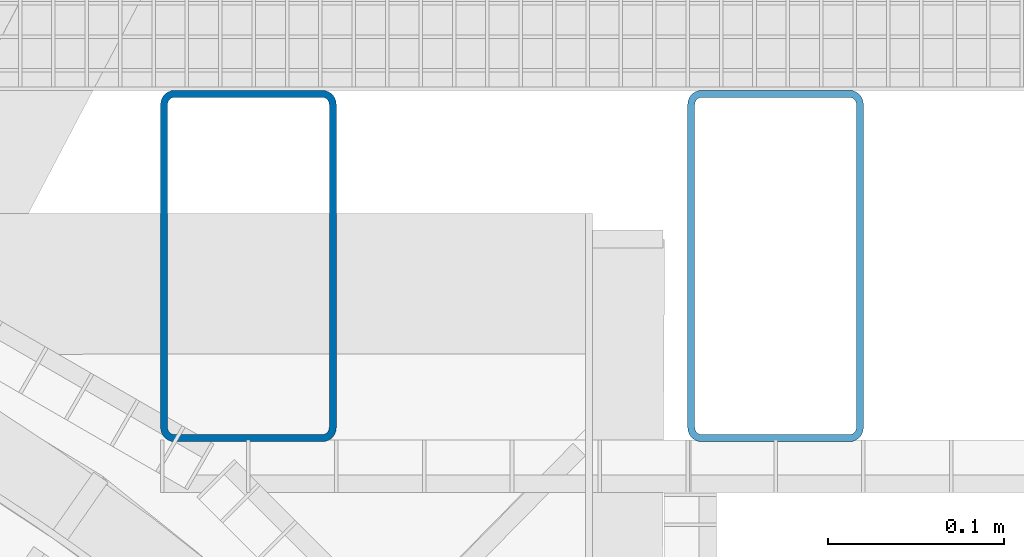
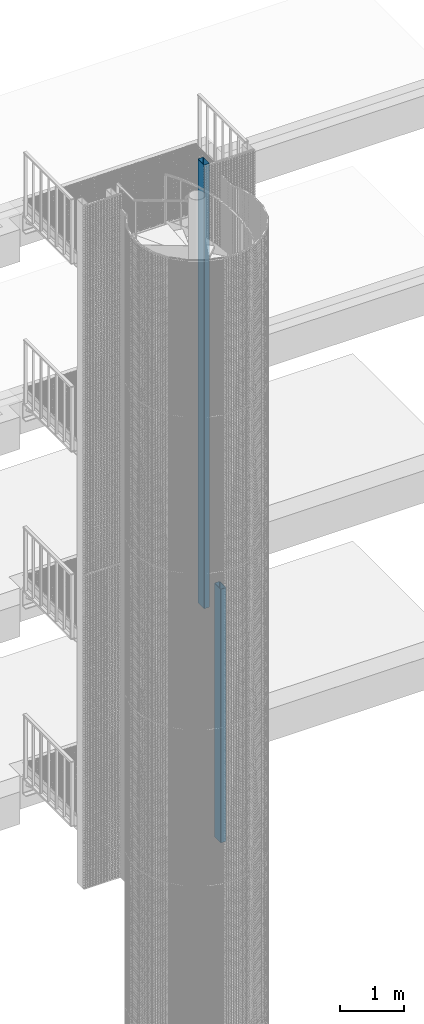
# One storey, part 29 of 1183: 2 columns, 2 elements without a shape of their own.
"""IFC2X3 building model written with IfcOpenShell, lengths in millimetres."""

from ifc_helpers import new_model, si_unit, frame, origin_with_axes, origin_2d_with_axis, place, context, subcontext, project, spatial, hollow_rectangle, extrude, material, type_object, element, aggregate, save


model = new_model("IFC2X3")

# Units and contexts
model_context = context("Model", 3, precision=1e-05, world=origin_with_axes())
body_context = subcontext(model_context, "Body", "Model", "MODEL_VIEW")
ifc_project = project(units=[si_unit("LENGTHUNIT", "METRE", prefix="MILLI"), si_unit("AREAUNIT", "SQUARE_METRE"), si_unit("VOLUMEUNIT", "CUBIC_METRE"), si_unit("MASSUNIT", "GRAM", prefix="KILO"), si_unit("TIMEUNIT", "SECOND"), si_unit("PLANEANGLEUNIT", "RADIAN"), si_unit("SOLIDANGLEUNIT", "STERADIAN"), si_unit("THERMODYNAMICTEMPERATUREUNIT", "DEGREE_CELSIUS"), si_unit("LUMINOUSINTENSITYUNIT", "LUMEN")], contexts=[model_context])

# Site, building, storey
site_placement = place(None, origin_with_axes())
site = spatial("IfcSite", under=ifc_project, at=site_placement, Name="Undefined", CompositionType="ELEMENT")
building_placement = place(site_placement, origin_with_axes())
building = spatial("IfcBuilding", under=site, at=building_placement, Name="Undefined", CompositionType="ELEMENT")
storey_placement = place(building_placement, origin_with_axes())
storey = spatial("IfcBuildingStorey", under=building, at=storey_placement, Name="Undefined", CompositionType="ELEMENT", Elevation=0.0)

# Assembly, column
assembly_1_placement = place(storey_placement, origin_with_axes())
assembly_1 = element("IfcElementAssembly", 1, at=assembly_1_placement, inside=storey, AssemblyPlace="NOTDEFINED", PredefinedType="NOTDEFINED")
ifc_material = material(Name="STEEL/S235JR")
column_type = type_object("IfcColumnType", Name="TUBE-R-200*100*4", PredefinedType="NOTDEFINED")
column_1_placement = place(assembly_1_placement, frame((700.069589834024, 1000.0146899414, 9769.99678174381), z_axis=(0.0, 0.0, 1.0), x_axis=(0.0, 1.0, 0.0)))
column_1 = element("IfcColumn", 2, at=column_1_placement, type_object=column_type, material=ifc_material, Name="EXISTANTS", context=body_context, shape_type="SweptSolid", body=[
    extrude(hollow_rectangle(XDim=100.0, YDim=200.0, WallThickness=4.0, InnerFilletRadius=4.0, OuterFilletRadius=8.0, at=origin_2d_with_axis()), frame((0.0, 0.0, 8520.00321825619), z_axis=(0.0, 0.0, -1.0), x_axis=(0.0, 1.0, 0.0)), (0.0, 0.0, 1.0), 8520.0),
])
aggregate(assembly_1, [column_1])

assembly_2_placement = place(storey_placement, origin_with_axes())
assembly_2 = element("IfcElementAssembly", 3, at=assembly_2_placement, inside=storey, AssemblyPlace="NOTDEFINED", PredefinedType="NOTDEFINED")
column_2_placement = place(assembly_2_placement, frame((1000.06958983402, 1000.0146899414, 5170.0), z_axis=(0.0, 0.0, 1.0), x_axis=(0.0, 1.0, 0.0)))
column_2 = element("IfcColumn", 4, at=column_2_placement, type_object=column_type, material=ifc_material, Name="EXISTANTS", context=body_context, shape_type="SweptSolid", body=[
    extrude(hollow_rectangle(XDim=100.0, YDim=200.0, WallThickness=4.0, InnerFilletRadius=4.0, OuterFilletRadius=8.0, at=origin_2d_with_axis()), frame((0.0, 0.0, 4869.99678174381), z_axis=(0.0, 0.0, -1.0), x_axis=(0.0, 1.0, 0.0)), (0.0, 0.0, 1.0), 4870.0),
])
aggregate(assembly_2, [column_2])

save(model, "model.ifc")
